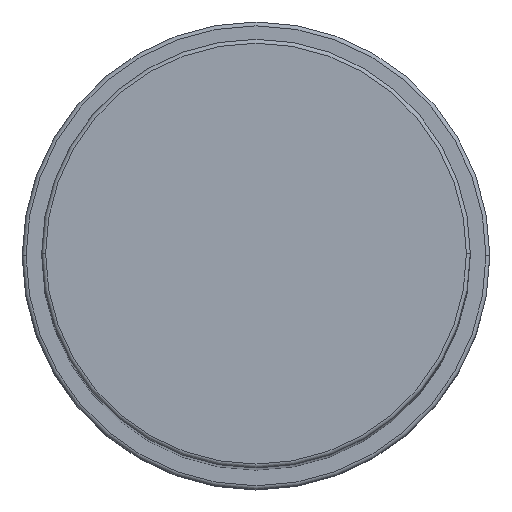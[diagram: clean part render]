
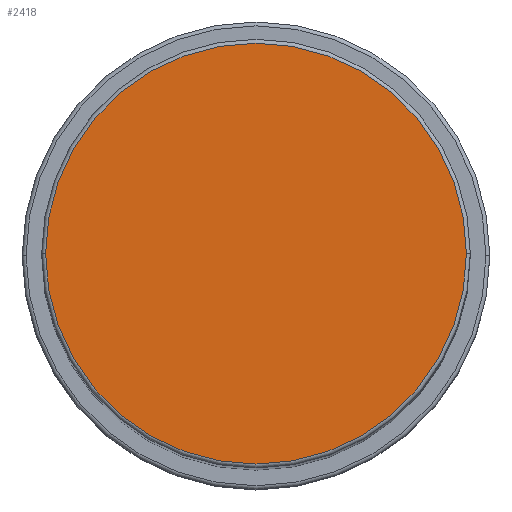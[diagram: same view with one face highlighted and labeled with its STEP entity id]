
A CAD part, top view. The second image highlights one B-rep face of the part: STEP entity #2418.
In plain terms, the highlighted planar face has unit normal (0, 0, 1).
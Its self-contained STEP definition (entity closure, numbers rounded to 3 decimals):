
#3 = DIRECTION ( 'NONE',  ( 0., 0., 1. ) ) ;
#184 = CARTESIAN_POINT ( 'NONE',  ( 0., 0., 173. ) ) ;
#342 = EDGE_CURVE ( 'NONE', #3349, #604, #2984, .T. ) ;
#604 = VERTEX_POINT ( 'NONE', #4383 ) ;
#1237 = FACE_OUTER_BOUND ( 'NONE', #2882, .T. ) ;
#1269 = DIRECTION ( 'NONE',  ( 0., 0., 1. ) ) ;
#1780 = CIRCLE ( 'NONE', #3250, 27. ) ;
#2122 = AXIS2_PLACEMENT_3D ( 'NONE', #3445, #3847, #3034 ) ;
#2418 = ADVANCED_FACE ( 'NONE', ( #1237 ), #2642, .T. ) ;
#2642 = PLANE ( 'NONE',  #2122 ) ;
#2882 = EDGE_LOOP ( 'NONE', ( #2942, #2883 ) ) ;
#2883 = ORIENTED_EDGE ( 'NONE', *, *, #342, .T. ) ;
#2893 = EDGE_CURVE ( 'NONE', #604, #3349, #1780, .T. ) ;
#2942 = ORIENTED_EDGE ( 'NONE', *, *, #2893, .T. ) ;
#2984 = CIRCLE ( 'NONE', #3629, 27. ) ;
#3034 = DIRECTION ( 'NONE',  ( 1., 0., 0. ) ) ;
#3250 = AXIS2_PLACEMENT_3D ( 'NONE', #3454, #3, #4210 ) ;
#3349 = VERTEX_POINT ( 'NONE', #4816 ) ;
#3445 = CARTESIAN_POINT ( 'NONE',  ( 0., 0., 173. ) ) ;
#3454 = CARTESIAN_POINT ( 'NONE',  ( 0., 0., 173. ) ) ;
#3629 = AXIS2_PLACEMENT_3D ( 'NONE', #184, #1269, #4011 ) ;
#3847 = DIRECTION ( 'NONE',  ( 0., 0., 1. ) ) ;
#4011 = DIRECTION ( 'NONE',  ( 1., 0., 0. ) ) ;
#4210 = DIRECTION ( 'NONE',  ( 1., 0., 0. ) ) ;
#4383 = CARTESIAN_POINT ( 'NONE',  ( 27., 0., 173. ) ) ;
#4816 = CARTESIAN_POINT ( 'NONE',  ( -27., 0., 173. ) ) ;
